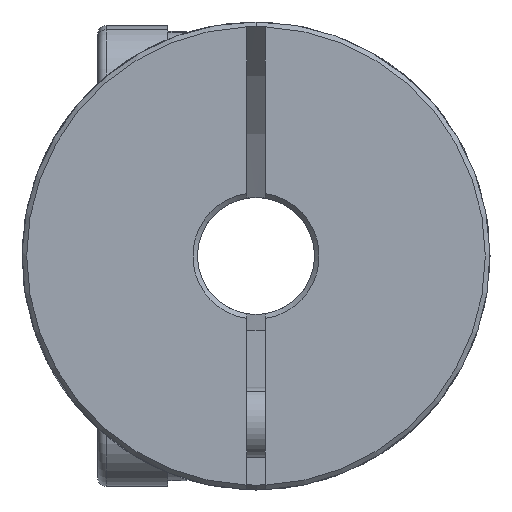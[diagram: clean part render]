
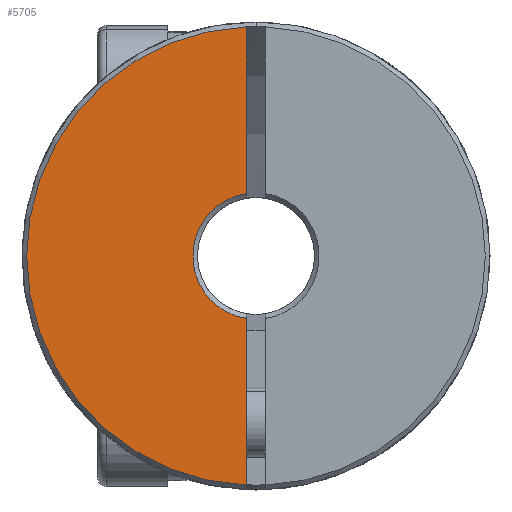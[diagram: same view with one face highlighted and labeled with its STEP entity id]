
A CAD part, front view. The second image highlights one B-rep face of the part: STEP entity #5705.
In plain terms, the highlighted planar face has unit normal (0, -1, 0).
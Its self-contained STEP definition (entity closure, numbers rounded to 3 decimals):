
#160 = CARTESIAN_POINT ( 'NONE',  ( -0.4, -17.5, 9.792 ) ) ;
#583 = CARTESIAN_POINT ( 'NONE',  ( -0.4, -17.5, 0. ) ) ;
#685 = VERTEX_POINT ( 'NONE', #1960 ) ;
#709 = CARTESIAN_POINT ( 'NONE',  ( 0., -17.5, 0. ) ) ;
#1228 = CARTESIAN_POINT ( 'NONE',  ( -0.4, -17.5, 0. ) ) ;
#1265 = EDGE_CURVE ( 'NONE', #5129, #685, #5868, .T. ) ;
#1284 = DIRECTION ( 'NONE',  ( 0., 0., 1. ) ) ;
#1390 = CARTESIAN_POINT ( 'NONE',  ( -0.4, -17.5, -2.67 ) ) ;
#1404 = DIRECTION ( 'NONE',  ( 0., 0., 1. ) ) ;
#1458 = DIRECTION ( 'NONE',  ( 0., 1., 0. ) ) ;
#1604 = ORIENTED_EDGE ( 'NONE', *, *, #7286, .F. ) ;
#1860 = VECTOR ( 'NONE', #2906, 1000. ) ;
#1898 = AXIS2_PLACEMENT_3D ( 'NONE', #709, #4789, #1284 ) ;
#1960 = CARTESIAN_POINT ( 'NONE',  ( -0.4, -17.5, 2.67 ) ) ;
#2454 = CIRCLE ( 'NONE', #1898, 9.8 ) ;
#2634 = VERTEX_POINT ( 'NONE', #1390 ) ;
#2906 = DIRECTION ( 'NONE',  ( 0., 0., -1. ) ) ;
#3000 = ORIENTED_EDGE ( 'NONE', *, *, #1265, .F. ) ;
#3065 = EDGE_LOOP ( 'NONE', ( #3000, #5666, #1604, #4174 ) ) ;
#3274 = CARTESIAN_POINT ( 'NONE',  ( 0., -17.5, 0. ) ) ;
#3709 = AXIS2_PLACEMENT_3D ( 'NONE', #3274, #3861, #6822 ) ;
#3861 = DIRECTION ( 'NONE',  ( 0., 1., 0. ) ) ;
#4174 = ORIENTED_EDGE ( 'NONE', *, *, #5575, .T. ) ;
#4420 = CARTESIAN_POINT ( 'NONE',  ( 0., -17.5, 0. ) ) ;
#4789 = DIRECTION ( 'NONE',  ( 0., -1., 0. ) ) ;
#5048 = FACE_OUTER_BOUND ( 'NONE', #3065, .T. ) ;
#5129 = VERTEX_POINT ( 'NONE', #160 ) ;
#5171 = VECTOR ( 'NONE', #5772, 1000. ) ;
#5250 = EDGE_CURVE ( 'NONE', #5129, #7323, #2454, .T. ) ;
#5318 = CIRCLE ( 'NONE', #5428, 2.7 ) ;
#5420 = CARTESIAN_POINT ( 'NONE',  ( -0.4, -17.5, -9.792 ) ) ;
#5428 = AXIS2_PLACEMENT_3D ( 'NONE', #4420, #1458, #1404 ) ;
#5575 = EDGE_CURVE ( 'NONE', #2634, #685, #5318, .T. ) ;
#5666 = ORIENTED_EDGE ( 'NONE', *, *, #5250, .T. ) ;
#5705 = ADVANCED_FACE ( 'NONE', ( #5048 ), #6231, .F. ) ;
#5772 = DIRECTION ( 'NONE',  ( 0., 0., -1. ) ) ;
#5868 = LINE ( 'NONE', #583, #1860 ) ;
#6231 = PLANE ( 'NONE',  #3709 ) ;
#6687 = LINE ( 'NONE', #1228, #5171 ) ;
#6822 = DIRECTION ( 'NONE',  ( 0., 0., 1. ) ) ;
#7286 = EDGE_CURVE ( 'NONE', #2634, #7323, #6687, .T. ) ;
#7323 = VERTEX_POINT ( 'NONE', #5420 ) ;
